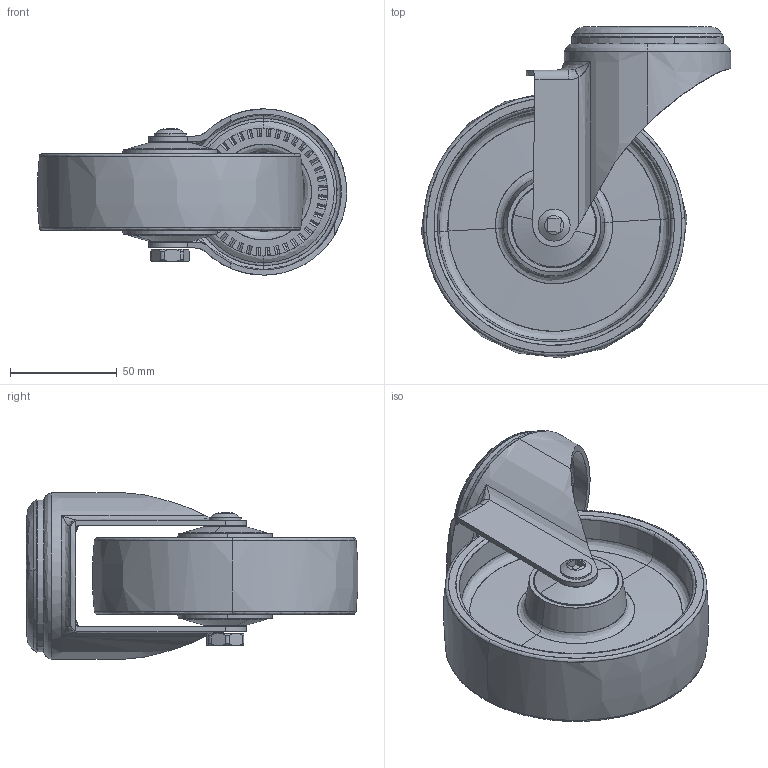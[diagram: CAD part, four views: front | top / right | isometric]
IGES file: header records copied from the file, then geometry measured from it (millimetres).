
Start section: SolidWorks IGES file using analytic representation for surfaces
Global section: file name: S:\Tyokansio\VL\LK\400222_IGES.IGS; native system: SolidWorks 2011; preprocessor: SolidWorks 2011; author: VilleLa; date: 110826.133607; units: millimetre
Bounding box: 145.11 x 155.69 x 78 mm (x, y, z)
Surface area: 89883.9 mm2 (no closed solid volume)
Topology: 0 solids, 0 shells, 258 faces, 3912 edges, 3908 vertices
Faces by surface type: bspline 166, revolution 92
